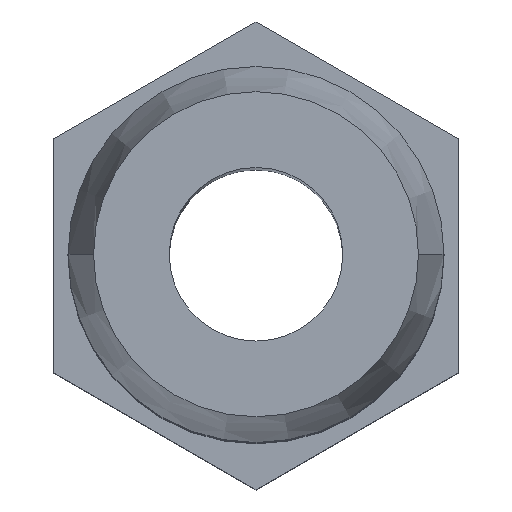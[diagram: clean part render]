
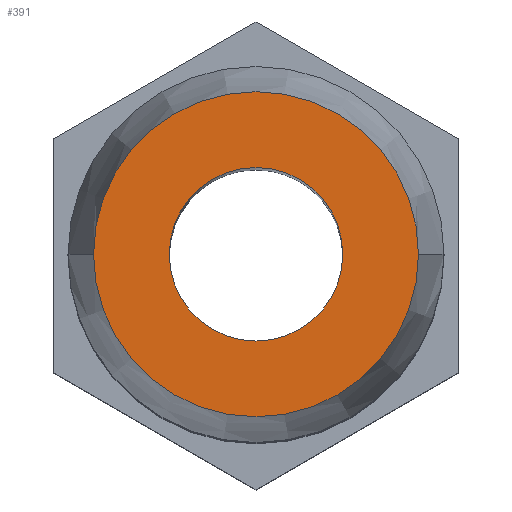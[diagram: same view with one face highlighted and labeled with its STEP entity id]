
A CAD part, top view. The second image highlights one B-rep face of the part: STEP entity #391.
In plain terms, the highlighted planar face has unit normal (0, 0, 1).
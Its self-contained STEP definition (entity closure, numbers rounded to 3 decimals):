
#58 = ORIENTED_EDGE ( 'NONE', *, *, #225, .T. ) ;
#154 = ORIENTED_EDGE ( 'NONE', *, *, #871, .F. ) ;
#191 = CARTESIAN_POINT ( 'NONE',  ( 5.618, 0., 38. ) ) ;
#216 = EDGE_CURVE ( 'NONE', #760, #898, #1185, .T. ) ;
#225 = EDGE_CURVE ( 'NONE', #898, #760, #1011, .T. ) ;
#240 = DIRECTION ( 'NONE',  ( 1., 0., 0. ) ) ;
#253 = ORIENTED_EDGE ( 'NONE', *, *, #1023, .F. ) ;
#307 = DIRECTION ( 'NONE',  ( 0., 0., 1. ) ) ;
#330 = CARTESIAN_POINT ( 'NONE',  ( 0., 0., 38. ) ) ;
#385 = FACE_BOUND ( 'NONE', #1114, .T. ) ;
#391 = ADVANCED_FACE ( 'NONE', ( #385, #505 ), #1222, .F. ) ;
#430 = CARTESIAN_POINT ( 'NONE',  ( -3., 0., 38. ) ) ;
#505 = FACE_OUTER_BOUND ( 'NONE', #1156, .T. ) ;
#514 = VERTEX_POINT ( 'NONE', #1265 ) ;
#644 = DIRECTION ( 'NONE',  ( 1., 0., 0. ) ) ;
#648 = DIRECTION ( 'NONE',  ( 0., 0., 1. ) ) ;
#663 = CARTESIAN_POINT ( 'NONE',  ( 0., 0., 38. ) ) ;
#673 = DIRECTION ( 'NONE',  ( 1., 0., 0. ) ) ;
#679 = DIRECTION ( 'NONE',  ( 0., 0., 1. ) ) ;
#683 = CARTESIAN_POINT ( 'NONE',  ( 0., 0., 38. ) ) ;
#736 = CARTESIAN_POINT ( 'NONE',  ( -5.618, 0., 38. ) ) ;
#746 = AXIS2_PLACEMENT_3D ( 'NONE', #663, #648, #644 ) ;
#760 = VERTEX_POINT ( 'NONE', #191 ) ;
#802 = AXIS2_PLACEMENT_3D ( 'NONE', #683, #679, #673 ) ;
#871 = EDGE_CURVE ( 'NONE', #1121, #514, #1233, .T. ) ;
#898 = VERTEX_POINT ( 'NONE', #736 ) ;
#932 = DIRECTION ( 'NONE',  ( 1., 0., 0. ) ) ;
#941 = CIRCLE ( 'NONE', #1120, 3. ) ;
#971 = DIRECTION ( 'NONE',  ( 0., 0., 1. ) ) ;
#989 = CARTESIAN_POINT ( 'NONE',  ( 0., 0., 38. ) ) ;
#1004 = DIRECTION ( 'NONE',  ( -1., 0., 0. ) ) ;
#1011 = CIRCLE ( 'NONE', #746, 5.618 ) ;
#1012 = DIRECTION ( 'NONE',  ( 0., 0., -1. ) ) ;
#1023 = EDGE_CURVE ( 'NONE', #514, #1121, #941, .T. ) ;
#1024 = AXIS2_PLACEMENT_3D ( 'NONE', #989, #971, #932 ) ;
#1028 = CARTESIAN_POINT ( 'NONE',  ( 0., 5.618, 38. ) ) ;
#1114 = EDGE_LOOP ( 'NONE', ( #253, #154 ) ) ;
#1120 = AXIS2_PLACEMENT_3D ( 'NONE', #330, #307, #240 ) ;
#1121 = VERTEX_POINT ( 'NONE', #430 ) ;
#1122 = ORIENTED_EDGE ( 'NONE', *, *, #216, .T. ) ;
#1156 = EDGE_LOOP ( 'NONE', ( #58, #1122 ) ) ;
#1185 = CIRCLE ( 'NONE', #802, 5.618 ) ;
#1210 = AXIS2_PLACEMENT_3D ( 'NONE', #1028, #1012, #1004 ) ;
#1222 = PLANE ( 'NONE',  #1210 ) ;
#1233 = CIRCLE ( 'NONE', #1024, 3. ) ;
#1265 = CARTESIAN_POINT ( 'NONE',  ( 3., 0., 38. ) ) ;
